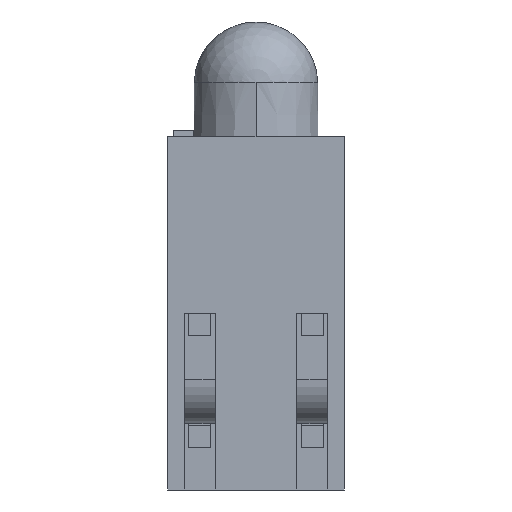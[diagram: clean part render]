
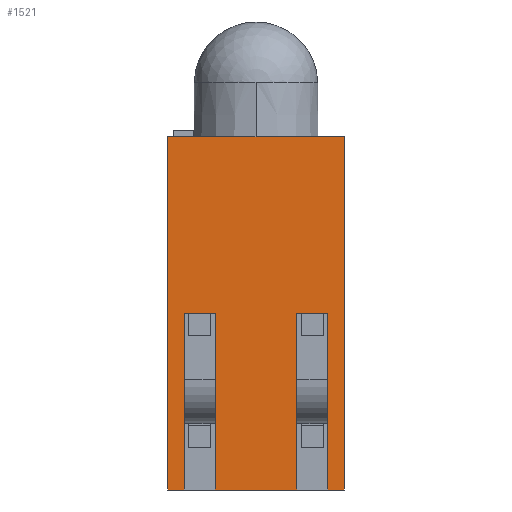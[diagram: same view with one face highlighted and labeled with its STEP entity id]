
A CAD part, front view. The second image highlights one B-rep face of the part: STEP entity #1521.
In plain terms, the highlighted planar face has unit normal (0, -1, 0).
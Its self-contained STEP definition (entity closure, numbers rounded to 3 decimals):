
#166 = DIRECTION ( 'NONE',  ( 0., 0., 1. ) ) ;
#261 = VECTOR ( 'NONE', #166, 1000. ) ;
#285 = CARTESIAN_POINT ( 'NONE',  ( 4., 0., -8. ) ) ;
#289 = CARTESIAN_POINT ( 'NONE',  ( 0.38, 0., -8. ) ) ;
#361 = EDGE_CURVE ( 'NONE', #3066, #6243, #4416, .T. ) ;
#380 = LINE ( 'NONE', #2038, #6715 ) ;
#427 = LINE ( 'NONE', #1525, #2075 ) ;
#528 = CARTESIAN_POINT ( 'NONE',  ( 0.38, 0., -4. ) ) ;
#529 = ORIENTED_EDGE ( 'NONE', *, *, #2366, .F. ) ;
#628 = VERTEX_POINT ( 'NONE', #7210 ) ;
#757 = EDGE_CURVE ( 'NONE', #3066, #6722, #3185, .T. ) ;
#804 = VERTEX_POINT ( 'NONE', #4359 ) ;
#814 = CARTESIAN_POINT ( 'NONE',  ( 1.08, 0., -8. ) ) ;
#835 = CARTESIAN_POINT ( 'NONE',  ( 1.08, 0., -4. ) ) ;
#948 = ORIENTED_EDGE ( 'NONE', *, *, #5067, .F. ) ;
#975 = ORIENTED_EDGE ( 'NONE', *, *, #3018, .F. ) ;
#1214 = VECTOR ( 'NONE', #2065, 1000. ) ;
#1247 = LINE ( 'NONE', #4904, #2545 ) ;
#1320 = VECTOR ( 'NONE', #7339, 1000. ) ;
#1493 = VERTEX_POINT ( 'NONE', #2620 ) ;
#1521 = ADVANCED_FACE ( 'NONE', ( #5932 ), #7221, .F. ) ;
#1525 = CARTESIAN_POINT ( 'NONE',  ( 4., 0., -8. ) ) ;
#1529 = DIRECTION ( 'NONE',  ( 0., 0., -1. ) ) ;
#1539 = DIRECTION ( 'NONE',  ( -1., 0., 0. ) ) ;
#1576 = CARTESIAN_POINT ( 'NONE',  ( 0., 0., 0. ) ) ;
#1583 = CARTESIAN_POINT ( 'NONE',  ( 4., 0., 0. ) ) ;
#1835 = CARTESIAN_POINT ( 'NONE',  ( 0.38, 0., -8. ) ) ;
#1941 = VECTOR ( 'NONE', #5128, 1000. ) ;
#2038 = CARTESIAN_POINT ( 'NONE',  ( 4., 0., -8. ) ) ;
#2065 = DIRECTION ( 'NONE',  ( 0., 0., -1. ) ) ;
#2075 = VECTOR ( 'NONE', #4334, 1000. ) ;
#2078 = EDGE_CURVE ( 'NONE', #1493, #5758, #3800, .T. ) ;
#2167 = ORIENTED_EDGE ( 'NONE', *, *, #3430, .F. ) ;
#2177 = EDGE_CURVE ( 'NONE', #4175, #6035, #6374, .T. ) ;
#2191 = CARTESIAN_POINT ( 'NONE',  ( 3.62, 0., -8. ) ) ;
#2339 = VERTEX_POINT ( 'NONE', #1835 ) ;
#2366 = EDGE_CURVE ( 'NONE', #804, #4175, #6031, .T. ) ;
#2545 = VECTOR ( 'NONE', #5402, 1000. ) ;
#2620 = CARTESIAN_POINT ( 'NONE',  ( 3.62, 0., -8. ) ) ;
#2663 = VECTOR ( 'NONE', #3313, 1000. ) ;
#2690 = EDGE_CURVE ( 'NONE', #6243, #3735, #5648, .T. ) ;
#2746 = VERTEX_POINT ( 'NONE', #6701 ) ;
#2756 = EDGE_CURVE ( 'NONE', #628, #2746, #3243, .T. ) ;
#3018 = EDGE_CURVE ( 'NONE', #5758, #628, #1247, .T. ) ;
#3066 = VERTEX_POINT ( 'NONE', #6529 ) ;
#3185 = LINE ( 'NONE', #1583, #1320 ) ;
#3243 = LINE ( 'NONE', #4424, #4502 ) ;
#3313 = DIRECTION ( 'NONE',  ( -1., 0., 0. ) ) ;
#3430 = EDGE_CURVE ( 'NONE', #6035, #2339, #7196, .T. ) ;
#3482 = DIRECTION ( 'NONE',  ( -1., 0., 0. ) ) ;
#3635 = CARTESIAN_POINT ( 'NONE',  ( 3.62, 0., -4. ) ) ;
#3654 = VECTOR ( 'NONE', #1529, 1000. ) ;
#3735 = VERTEX_POINT ( 'NONE', #4034 ) ;
#3779 = AXIS2_PLACEMENT_3D ( 'NONE', #7182, #4951, #7259 ) ;
#3800 = LINE ( 'NONE', #2191, #4250 ) ;
#3814 = DIRECTION ( 'NONE',  ( 0., 0., -1. ) ) ;
#3932 = ORIENTED_EDGE ( 'NONE', *, *, #2756, .F. ) ;
#4034 = CARTESIAN_POINT ( 'NONE',  ( 0., 0., -8. ) ) ;
#4175 = VERTEX_POINT ( 'NONE', #835 ) ;
#4218 = EDGE_CURVE ( 'NONE', #2339, #3735, #427, .T. ) ;
#4250 = VECTOR ( 'NONE', #6126, 1000. ) ;
#4269 = VECTOR ( 'NONE', #1539, 1000. ) ;
#4334 = DIRECTION ( 'NONE',  ( -1., 0., 0. ) ) ;
#4359 = CARTESIAN_POINT ( 'NONE',  ( 1.08, 0., -8. ) ) ;
#4416 = LINE ( 'NONE', #6135, #2663 ) ;
#4424 = CARTESIAN_POINT ( 'NONE',  ( 2.92, 0., -8. ) ) ;
#4502 = VECTOR ( 'NONE', #3814, 1000. ) ;
#4632 = EDGE_LOOP ( 'NONE', ( #975, #6284, #7190, #6784, #7290, #6226, #5456, #2167, #6412, #529, #948, #3932 ) ) ;
#4904 = CARTESIAN_POINT ( 'NONE',  ( 2.92, 0., -4. ) ) ;
#4951 = DIRECTION ( 'NONE',  ( 0., 1., 0. ) ) ;
#5067 = EDGE_CURVE ( 'NONE', #2746, #804, #5462, .T. ) ;
#5128 = DIRECTION ( 'NONE',  ( -1., 0., 0. ) ) ;
#5229 = CARTESIAN_POINT ( 'NONE',  ( 0.38, 0., -4. ) ) ;
#5402 = DIRECTION ( 'NONE',  ( -1., 0., 0. ) ) ;
#5456 = ORIENTED_EDGE ( 'NONE', *, *, #4218, .F. ) ;
#5462 = LINE ( 'NONE', #5624, #4269 ) ;
#5624 = CARTESIAN_POINT ( 'NONE',  ( 4., 0., -8. ) ) ;
#5648 = LINE ( 'NONE', #6216, #3654 ) ;
#5758 = VERTEX_POINT ( 'NONE', #3635 ) ;
#5924 = EDGE_CURVE ( 'NONE', #6722, #1493, #380, .T. ) ;
#5932 = FACE_OUTER_BOUND ( 'NONE', #4632, .T. ) ;
#6031 = LINE ( 'NONE', #814, #261 ) ;
#6035 = VERTEX_POINT ( 'NONE', #528 ) ;
#6126 = DIRECTION ( 'NONE',  ( 0., 0., 1. ) ) ;
#6135 = CARTESIAN_POINT ( 'NONE',  ( 4., 0., 0. ) ) ;
#6216 = CARTESIAN_POINT ( 'NONE',  ( 0., 0., 0. ) ) ;
#6226 = ORIENTED_EDGE ( 'NONE', *, *, #2690, .T. ) ;
#6243 = VERTEX_POINT ( 'NONE', #1576 ) ;
#6284 = ORIENTED_EDGE ( 'NONE', *, *, #2078, .F. ) ;
#6374 = LINE ( 'NONE', #5229, #1941 ) ;
#6412 = ORIENTED_EDGE ( 'NONE', *, *, #2177, .F. ) ;
#6529 = CARTESIAN_POINT ( 'NONE',  ( 4., 0., 0. ) ) ;
#6701 = CARTESIAN_POINT ( 'NONE',  ( 2.92, 0., -8. ) ) ;
#6715 = VECTOR ( 'NONE', #3482, 1000. ) ;
#6722 = VERTEX_POINT ( 'NONE', #285 ) ;
#6784 = ORIENTED_EDGE ( 'NONE', *, *, #757, .F. ) ;
#7182 = CARTESIAN_POINT ( 'NONE',  ( 4., 0., 0. ) ) ;
#7190 = ORIENTED_EDGE ( 'NONE', *, *, #5924, .F. ) ;
#7196 = LINE ( 'NONE', #289, #1214 ) ;
#7210 = CARTESIAN_POINT ( 'NONE',  ( 2.92, 0., -4. ) ) ;
#7221 = PLANE ( 'NONE',  #3779 ) ;
#7259 = DIRECTION ( 'NONE',  ( 0., 0., 1. ) ) ;
#7290 = ORIENTED_EDGE ( 'NONE', *, *, #361, .T. ) ;
#7339 = DIRECTION ( 'NONE',  ( 0., 0., -1. ) ) ;
